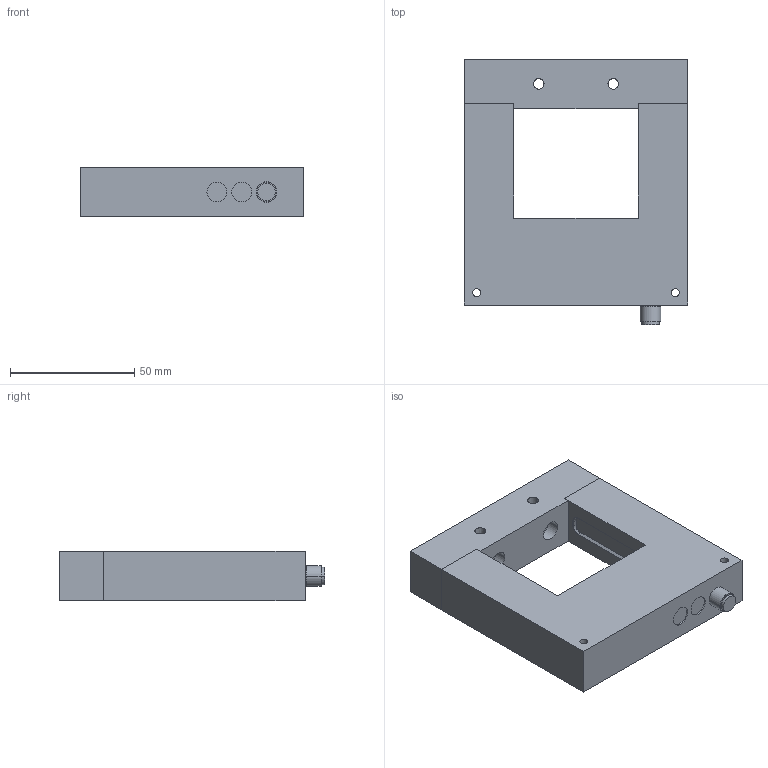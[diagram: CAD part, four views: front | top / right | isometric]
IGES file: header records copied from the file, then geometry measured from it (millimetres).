
Start section: IMSI TurboCAD v14.0
Global section: author: NULL; organization: NULL; date: 20141127.115540; units: millimetre
Bounding box: 90 x 107 x 20 mm (x, y, z)
Surface area: 47573.8 mm2 (no closed solid volume)
Topology: 0 solids, 0 shells, 164 faces, 800 edges, 800 vertices
Faces by surface type: revolution 84, extrusion 80
